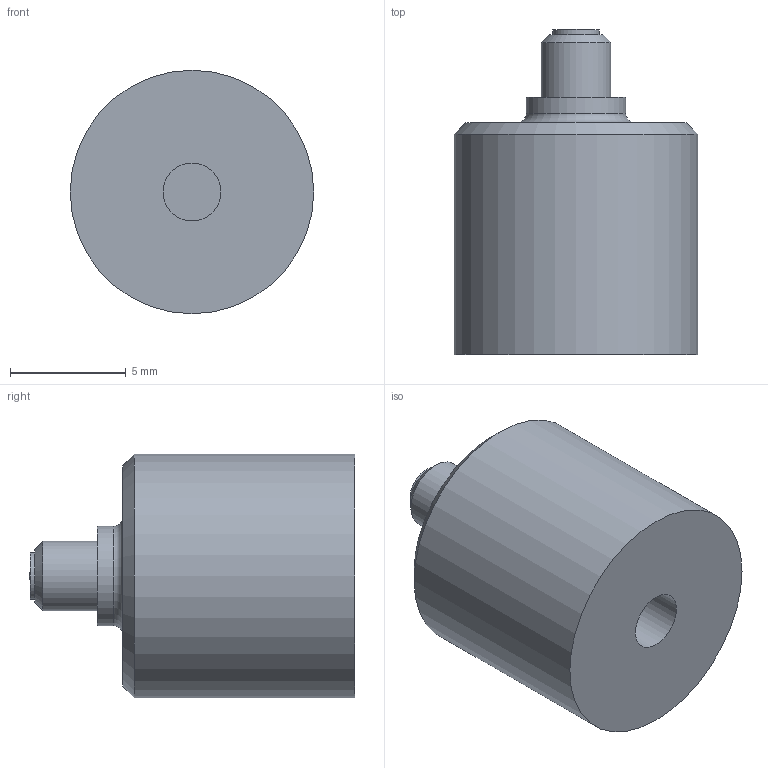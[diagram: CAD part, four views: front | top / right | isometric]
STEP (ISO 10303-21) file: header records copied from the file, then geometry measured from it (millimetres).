
FILE_DESCRIPTION(/* description */ ('Alibre Inc.'),/* implementation_level */ '2;1');
FILE_NAME(/* name */ 'export-B4430B41-2459-46B3-849F-167959193CD3',/* time_stamp */ '2019-01-29T08:59:53+01:00',/* author */ (''),/* organization */ (''),/* preprocessor_version */ 'ST-DEVELOPER v17',/* originating_system */ 'Alibre',/* authorisation */ '');
FILE_SCHEMA (('CONFIG_CONTROL_DESIGN'));
Length unit declared in the file: millimetre
Products named in the file (1): ID_1
Bounding box: 10.5 x 14.03 x 10.5 mm (x, y, z)
Volume: 882 mm3; surface area: 584.9 mm2
Topology: 1 solids, 4 shells, 360 faces, 963 edges, 641 vertices
Faces by surface type: bspline 206, plane 129, cylinder 15, cone 7, torus 3
Full cylindrical faces by diameter (mm): 0.7 x1, 1 x1, 1.1 x1, 1.3 x1, 1.9 x1, 2 x1, 2.5 x2, 3 x1, 4.3 x1, 10.5 x1
Entity records: 11173 total; most frequent: CARTESIAN_POINT 3768, ORIENTED_EDGE 1866, EDGE_CURVE 933, DIRECTION 734, VERTEX_POINT 632, VECTOR 477, LINE 477, EDGE_LOOP 415
